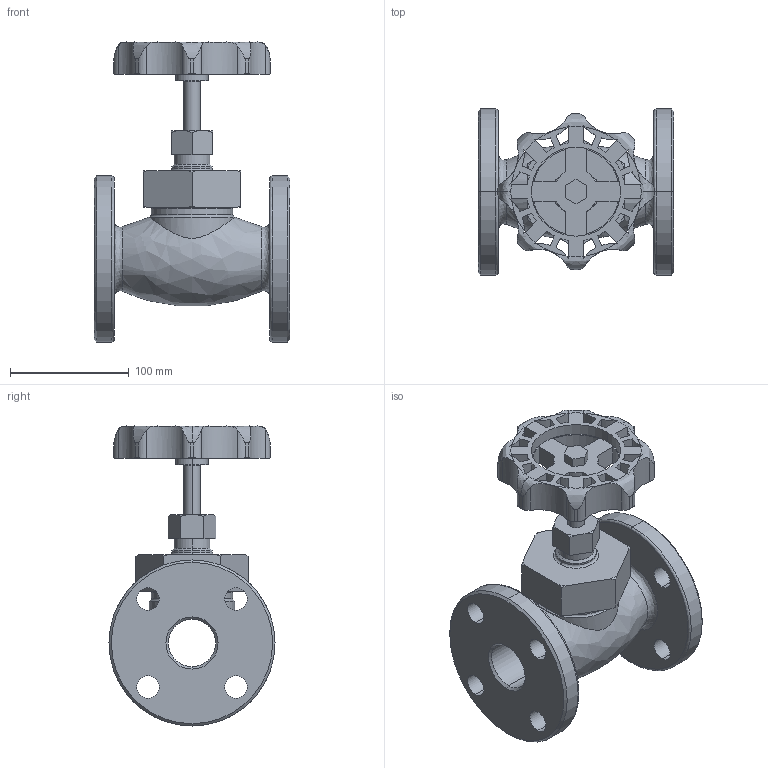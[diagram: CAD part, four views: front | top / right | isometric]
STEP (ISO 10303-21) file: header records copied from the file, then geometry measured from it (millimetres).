
FILE_DESCRIPTION( (''), '2;1');
FILE_NAME ('PC1027.9568.GLV-10F 40A_16786.stp','2025-07-28T11:37:06',(''),(''),'spGate 19.8.4 (****-****-****-****)','','');
FILE_SCHEMA (('AUTOMOTIVE_DESIGN'));
Length unit declared in the file: millimetre
Bounding box: 165 x 140 x 253 mm (x, y, z)
Volume: 1224118.8 mm3; surface area: 197097.8 mm2
Topology: 1 solids, 1 shells, 235 faces, 684 edges, 446 vertices
Faces by surface type: cylinder 106, plane 73, bspline 56
Entity records: 14478 total; most frequent: CARTESIAN_POINT 3354, ORIENTED_EDGE 1368, DIRECTION 1122, COLOUR_RGB 920, PRESENTATION_STYLE_ASSIGNMENT 920, STYLED_ITEM 920, EDGE_CURVE 684, DRAUGHTING_PRE_DEFINED_CURVE_FONT 684
